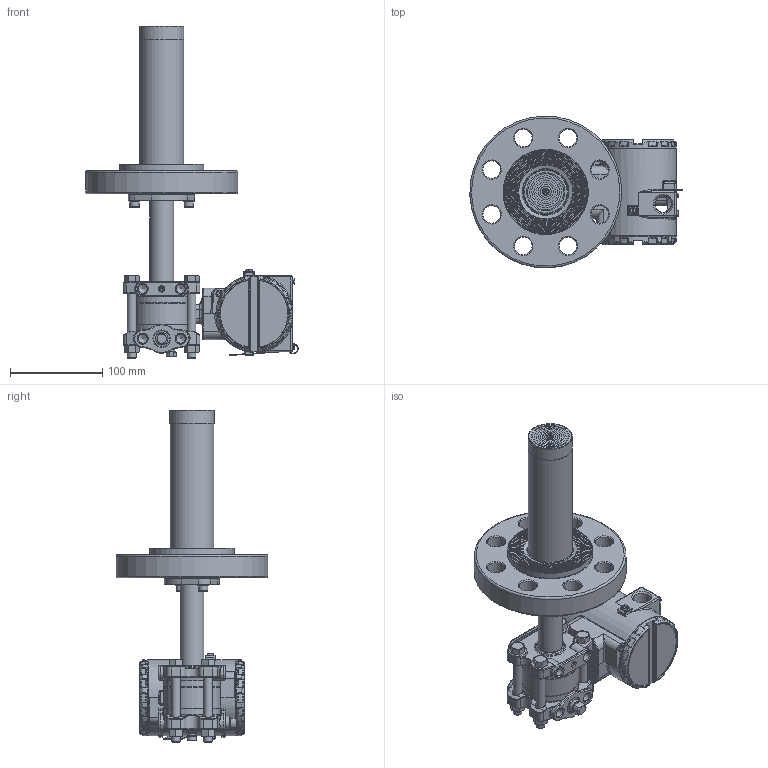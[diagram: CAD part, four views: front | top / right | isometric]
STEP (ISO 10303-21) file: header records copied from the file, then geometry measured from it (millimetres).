
FILE_DESCRIPTION(/* description */ (''),/* implementation_level */ '2;1');
FILE_NAME(/* name */ 'F:\Area\Desenvolvimento_2\Projects\Sensor\projetos\LD30X\montagens 3d - clientes\SELO NIVEL\LD30XL 2-600 RF ext 150 ref 1-4NPT purga acima.stp',/* time_stamp */ '2023-02-10T16:16:27-03:00',/* author */ ('inventor02'),/* organization */ (''),/* preprocessor_version */ 'ST-DEVELOPER v17',/* originating_system */ 'Autodesk Inventor 2019',/* authorisation */ '');
FILE_SCHEMA (('CONFIG_CONTROL_DESIGN'));
Products named in the file (41): LD30XL 2-600 RF ext 150 ref 1-4NPT purga acima; 204-0301-L-2 600 RF ext 150 purga acima; nivel fx3 com baixa diferencial 1-4NPT purga acima; involucro fx0-3 apos a usinagem final; flange diferencial std purga; 101-C-7484-01 flange selo nivel VR; 201-A-0504-tubo união teste 1; bujao 1-4NPT; Sangria; Porca 3-8 x 16 UNC; Paraf. 3-8 x 16 UNC; adaptação tubo x flanges 1-1-2 a 4pol; 101-B-0161-anel cortado do tubo - teste1; 101-B-0162-flange fixação tubo; ANSI B18.3.1M - M6x1 x 16; DIN 127 - A 6; flange 2 600 ext 150; 101-C-0126-10; 101-B-7700-01-150; 101-B-0168-11; carcaça vazia com tampas e plaqueta; carcaça LD inox sem letras; Subconjunto plaqueta 300; Plaqueta transmissor; Parafuso da Plaqueta; Rebite da Plaqueta; 096-A-0169-03; 101-A-0502-01; Chapa aterramento externo; ISO 1207 - M4 x 8; DIN 915 - M6 x 10; ANSI B18.3.1M - M4x0,7 x 8; Subconjunto tampa com visor aluminio; tampa pintada; VIDRO DO VISOR; oring 41x1 vidro tampa; Trava do vidro da tampa com visor; trava do vidro VH256; Subconjunto tampa sem visor-aluminio; tampa cega 300 pintada p0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
Assembly tree (51 placements, depth 4):
  LD30XL 2-600 RF ext 150 ref 1-4NPT purga acima
    204-0301-L-2 600 RF ext 150 purga acima
      nivel fx3 com baixa diferencial 1-4NPT purga acima
        involucro fx0-3 apos a usinagem final
        flange diferencial std purga
        101-C-7484-01 flange selo nivel VR
        201-A-0504-tubo união teste 1
        DIN 915 - M6 x 10
        bujao 1-4NPT
        Sangria
        Porca 3-8 x 16 UNC  x4
        Paraf. 3-8 x 16 UNC  x4
      adaptação tubo x flanges 1-1-2 a 4pol
        101-B-0161-anel cortado do tubo - teste1
        101-B-0162-flange fixação tubo
        ANSI B18.3.1M - M6x1 x 16  x2
        DIN 127 - A 6  x2
      flange 2 600 ext 150
        101-C-0126-10
        101-B-7700-01-150
        101-B-0168-11
    carcaça vazia com tampas e plaqueta
      carcaça LD inox sem letras
      Subconjunto plaqueta 300
        Plaqueta transmissor
        Parafuso da Plaqueta
        Rebite da Plaqueta
        096-A-0169-03
        101-A-0502-01
      Chapa aterramento externo
      ISO 1207 - M4 x 8
      DIN 915 - M6 x 10
      ANSI B18.3.1M - M4x0,7 x 8  x2
      Subconjunto tampa com visor aluminio
        tampa pintada
        VIDRO DO VISOR
        oring 41x1 vidro tampa
        Trava do vidro da tampa com visor
        trava do vidro VH256
        00034775-0
      Subconjunto tampa sem visor-aluminio
        tampa cega 300 pintada p0
        00034775-0
Bounding box: 230.71 x 164.84 x 360.7 mm (x, y, z)
Volume: 1209562 mm3; surface area: 367121 mm2
Topology: 43 solids, 43 shells, 2756 faces, 6595 edges, 3904 vertices
Faces by surface type: bspline 666, cylinder 660, plane 569, torus 479, cone 256, sphere 126
Full cylindrical faces by diameter (mm): 2 x4, 2.1 x2, 2.459 x5, 2.5 x1, 2.642 x1, 2.7 x1, 2.8 x1, 3 x4, 3.242 x4, 3.5 x5, 3.571 x1, 4 x5, 4.3 x1, 4.4 x1, 4.917 x4, 5 x1, 5.5 x3, 6 x6, 6.647 x1, 7 x7, 7.087 x2, 7.6 x2, 7.798 x4, 8 x1, 8.7 x2, 9.525 x4, 9.728 x6, 10 x2, 10.5 x8, 10.719 x2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
Entity records: 95071 total; most frequent: CARTESIAN_POINT 34704, DIRECTION 12469, ORIENTED_EDGE 12370, EDGE_CURVE 6185, AXIS2_PLACEMENT_3D 5507, VERTEX_POINT 3710, CIRCLE 3261, EDGE_LOOP 2813
